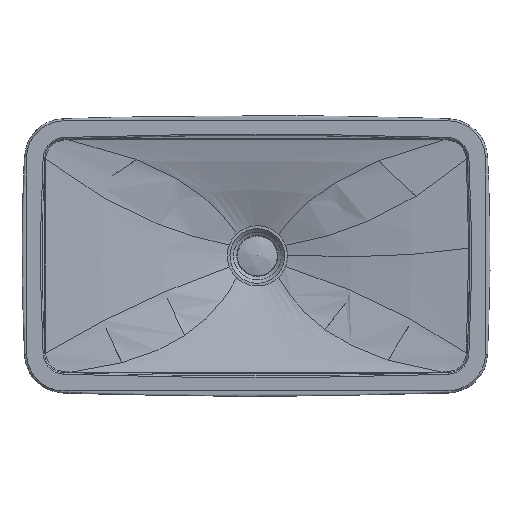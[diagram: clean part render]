
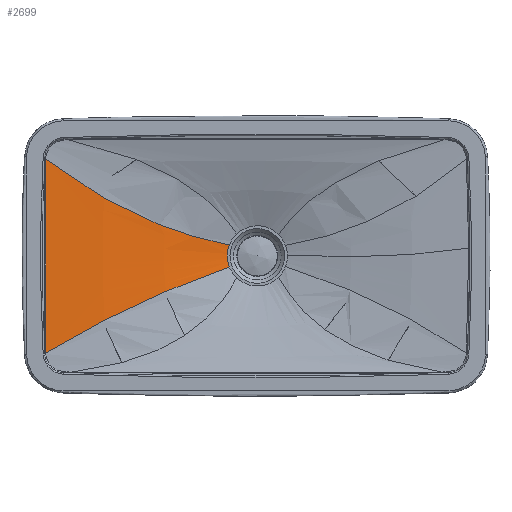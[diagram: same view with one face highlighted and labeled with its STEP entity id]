
A CAD part, top view. The second image highlights one B-rep face of the part: STEP entity #2699.
In plain terms, the highlighted free-form (B-spline) face has degree [3, 3] with [15, 4] control points.
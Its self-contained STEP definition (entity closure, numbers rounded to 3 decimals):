
#656=CARTESIAN_POINT('',(-314.452,-145.465,-0.078));
#657=VERTEX_POINT('',#656);
#665=CARTESIAN_POINT('',(-314.469,145.142,-0.079));
#666=VERTEX_POINT('',#665);
#667=CARTESIAN_POINT('',(-314.452,-145.465,-0.078));
#668=CARTESIAN_POINT('',(-315.835,-117.812,-0.079));
#669=CARTESIAN_POINT('',(-317.81,-62.47,-0.08));
#670=CARTESIAN_POINT('',(-318.507,34.459,-0.081));
#671=CARTESIAN_POINT('',(-316.537,103.663,-0.08));
#672=CARTESIAN_POINT('',(-314.469,145.142,-0.079));
#673=B_SPLINE_CURVE_WITH_KNOTS('',3,(#667,#668,#669,#670,#671,#672),.UNSPECIFIED.,.F.,.U.,(4,1,1,4),(0.0,8.306,16.612,29.07),.UNSPECIFIED.);
#674=EDGE_CURVE('',#657,#666,#673,.T.);
#2590=CARTESIAN_POINT('',(-39.989,16.184,-45.0));
#2591=VERTEX_POINT('',#2590);
#2592=CARTESIAN_POINT('',(-314.469,145.142,-0.079));
#2593=CARTESIAN_POINT('',(-229.14,78.207,-3.807));
#2594=CARTESIAN_POINT('',(-137.647,35.221,-18.781));
#2595=CARTESIAN_POINT('',(-39.989,16.184,-45.0));
#2596=B_SPLINE_CURVE_WITH_KNOTS('',3,(#2592,#2593,#2594,#2595),.UNSPECIFIED.,.F.,.U.,(4,4),(0.007,1.0),.UNSPECIFIED.);
#2597=EDGE_CURVE('',#666,#2591,#2596,.T.);
#2618=CARTESIAN_POINT('',(-314.48,145.151,-0.078));
#2619=CARTESIAN_POINT('',(-314.535,144.058,-0.078));
#2620=CARTESIAN_POINT('',(-314.77,139.376,-0.078));
#2621=CARTESIAN_POINT('',(-315.607,121.458,-0.078));
#2622=CARTESIAN_POINT('',(-316.723,92.837,-0.078));
#2623=CARTESIAN_POINT('',(-317.593,57.784,-0.078));
#2624=CARTESIAN_POINT('',(-318.076,26.189,-0.078));
#2625=CARTESIAN_POINT('',(-318.176,-3.498,-0.078));
#2626=CARTESIAN_POINT('',(-317.951,-36.087,-0.078));
#2627=CARTESIAN_POINT('',(-317.517,-61.203,-0.078));
#2628=CARTESIAN_POINT('',(-316.612,-95.541,-0.078));
#2629=CARTESIAN_POINT('',(-315.586,-121.775,-0.078));
#2630=CARTESIAN_POINT('',(-314.744,-139.692,-0.078));
#2631=CARTESIAN_POINT('',(-314.507,-144.372,-0.078));
#2632=CARTESIAN_POINT('',(-314.452,-145.465,-0.078));
#2633=CARTESIAN_POINT('',(-229.149,78.211,-3.806));
#2634=CARTESIAN_POINT('',(-229.278,75.579,-3.806));
#2635=CARTESIAN_POINT('',(-229.556,69.692,-3.806));
#2636=CARTESIAN_POINT('',(-230.131,55.78,-3.806));
#2637=CARTESIAN_POINT('',(-230.637,39.202,-3.806));
#2638=CARTESIAN_POINT('',(-230.93,21.03,-3.806));
#2639=CARTESIAN_POINT('',(-231.034,5.299,-3.806));
#2640=CARTESIAN_POINT('',(-230.963,-9.165,-3.806));
#2641=CARTESIAN_POINT('',(-230.727,-25.129,-3.806));
#2642=CARTESIAN_POINT('',(-230.418,-37.657,-3.806));
#2643=CARTESIAN_POINT('',(-229.811,-55.61,-3.806));
#2644=CARTESIAN_POINT('',(-229.111,-70.75,-3.806));
#2645=CARTESIAN_POINT('',(-228.333,-84.579,-3.806));
#2646=CARTESIAN_POINT('',(-227.976,-90.42,-3.806));
#2647=CARTESIAN_POINT('',(-227.814,-93.027,-3.806));
#2648=CARTESIAN_POINT('',(-137.652,35.222,-18.78));
#2649=CARTESIAN_POINT('',(-137.819,32.807,-18.78));
#2650=CARTESIAN_POINT('',(-138.144,28.141,-18.78));
#2651=CARTESIAN_POINT('',(-138.713,19.364,-18.78));
#2652=CARTESIAN_POINT('',(-139.109,11.279,-18.78));
#2653=CARTESIAN_POINT('',(-139.296,3.607,-18.78));
#2654=CARTESIAN_POINT('',(-139.335,-2.63,-18.78));
#2655=CARTESIAN_POINT('',(-139.247,-8.158,-18.78));
#2656=CARTESIAN_POINT('',(-139.038,-14.317,-18.78));
#2657=CARTESIAN_POINT('',(-138.782,-19.299,-18.78));
#2658=CARTESIAN_POINT('',(-138.277,-26.971,-18.78));
#2659=CARTESIAN_POINT('',(-137.672,-34.323,-18.78));
#2660=CARTESIAN_POINT('',(-136.899,-43.014,-18.78));
#2661=CARTESIAN_POINT('',(-136.493,-47.631,-18.78));
#2662=CARTESIAN_POINT('',(-136.293,-50.02,-18.78));
#2663=CARTESIAN_POINT('',(-39.989,16.184,-45.0));
#2664=CARTESIAN_POINT('',(-40.159,15.743,-45.0));
#2665=CARTESIAN_POINT('',(-40.535,14.725,-45.));
#2666=CARTESIAN_POINT('',(-41.352,12.21,-45.));
#2667=CARTESIAN_POINT('',(-42.139,9.067,-45.));
#2668=CARTESIAN_POINT('',(-42.689,5.516,-45.));
#2669=CARTESIAN_POINT('',(-42.977,2.404,-45.));
#2670=CARTESIAN_POINT('',(-43.029,-0.478,-45.));
#2671=CARTESIAN_POINT('',(-42.883,-3.652,-45.));
#2672=CARTESIAN_POINT('',(-42.609,-6.127,-45.));
#2673=CARTESIAN_POINT('',(-42.01,-9.624,-45.));
#2674=CARTESIAN_POINT('',(-41.271,-12.495,-45.));
#2675=CARTESIAN_POINT('',(-40.441,-14.995,-45.));
#2676=CARTESIAN_POINT('',(-40.06,-16.005,-45.0));
#2677=CARTESIAN_POINT('',(-39.888,-16.443,-45.0));
#2678=B_SPLINE_SURFACE_WITH_KNOTS('',3,3,((#2618,#2633,#2648,#2663),(#2619,#2634,#2649,#2664),(#2620,#2635,#2650,#2665),(#2621,#2636,#2651,#2666),(#2622,#2637,#2652,#2667),(#2623,#2638,#2653,#2668),(#2624,#2639,#2654,#2669),(#2625,#2640,#2655,#2670),(#2626,#2641,#2656,#2671),(#2627,#2642,#2657,#2672),(#2628,#2643,#2658,#2673),(#2629,#2644,#2659,#2674),(#2630,#2645,#2660,#2675),(#2631,#2646,#2661,#2676),(#2632,#2647,#2662,#2677)),.UNSPECIFIED.,.F.,.F.,.U.,(4,1,1,1,1,1,1,1,1,1,1,1,4),(4,4),(0.0,0.071,0.143,0.286,0.357,0.429,0.524,0.571,0.667,0.714,0.857,0.929,1.0),(0.007,1.0),.UNSPECIFIED.);
#2679=ORIENTED_EDGE('',*,*,#674,.F.);
#2680=CARTESIAN_POINT('',(-39.888,-16.443,-45.0));
#2681=VERTEX_POINT('',#2680);
#2682=CARTESIAN_POINT('',(-314.452,-145.465,-0.078));
#2683=CARTESIAN_POINT('',(-227.814,-93.027,-3.806));
#2684=CARTESIAN_POINT('',(-136.293,-50.02,-18.78));
#2685=CARTESIAN_POINT('',(-39.888,-16.443,-45.0));
#2686=B_SPLINE_CURVE_WITH_KNOTS('',3,(#2682,#2683,#2684,#2685),.UNSPECIFIED.,.F.,.U.,(4,4),(0.007,1.0),.UNSPECIFIED.);
#2687=EDGE_CURVE('',#657,#2681,#2686,.T.);
#2688=ORIENTED_EDGE('',*,*,#2687,.T.);
#2689=CARTESIAN_POINT('',(2.,0.,-45.0));
#2690=DIRECTION('',(0.0,0.0,1.0));
#2691=DIRECTION('',(-1.0,0.0,0.0));
#2692=AXIS2_PLACEMENT_3D('',#2689,#2690,#2691);
#2693=CIRCLE('',#2692,45.0);
#2694=EDGE_CURVE('',#2591,#2681,#2693,.T.);
#2695=ORIENTED_EDGE('',*,*,#2694,.F.);
#2696=ORIENTED_EDGE('',*,*,#2597,.F.);
#2697=EDGE_LOOP('',(#2679,#2688,#2695,#2696));
#2698=FACE_OUTER_BOUND('',#2697,.T.);
#2699=ADVANCED_FACE('',(#2698),#2678,.T.);
